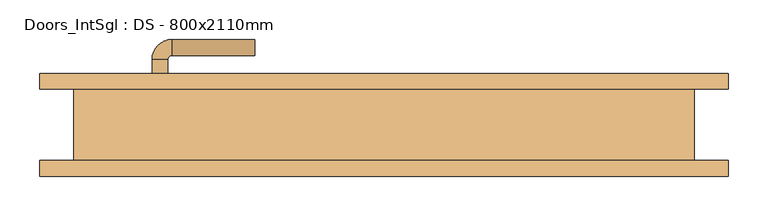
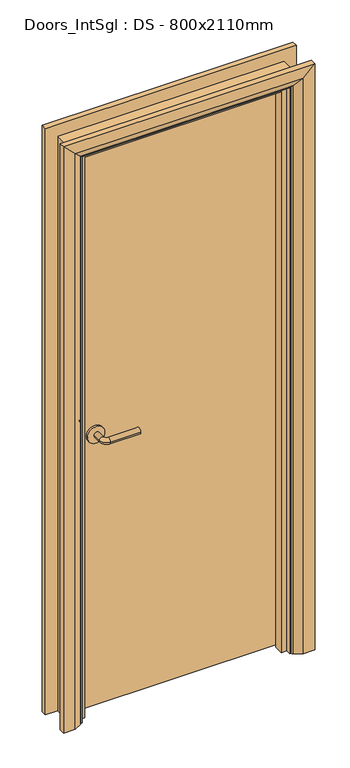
"""IFC4 building model written with IfcOpenShell, lengths in millimetres: door geometry, Doors_IntSgl : DS - 800x2110mm."""

from ifc_helpers import new_model, si_unit, point, frame, frame_2d, origin, place, context, project, spatial, polyline, circle_curve, ellipse_curve, trimmed, segment, composite_curve, outline, extrude, faceted_brep, source, transform, mapped, element, save
from ifc_brep_helpers import plane_surface, cylinder_surface, revolved_surface, advanced_brep


def doors_intsgl_ds_800x2110mm_65b095ba(model_context):
    return source(origin(), model_context, "Body", "SolidModel", [
        advanced_brep(
        [(-293.0, -1.0, 1000.0), (-273.0, -1.0, 1000.0), (-273.0, -31.0, 1000.0), (-293.0, -31.0, 1000.0), (-268.0, -36.0, 1000.0), (-268.0, -56.0, 1000.0), (-163.0, -56.0, 1000.0), (-163.0, -36.0, 1000.0)],
        [
            (0, 1, circle_curve(frame((-283.0, -1.0, 1000.0), z_axis=(0.0, 1.0, 0.0), x_axis=(1.0, 0.0, 0.0)), 10.0)),
            (1, 0, circle_curve(frame((-283.0, -1.0, 1000.0), z_axis=(0.0, 1.0, 0.0), x_axis=(1.0, 0.0, 0.0)), 10.0)),
            (1, 2),
            (2, 3, circle_curve(frame((-283.0, -31.0, 1000.0), z_axis=(0.0, 1.0, 0.0), x_axis=(1.0, 0.0, 0.0)), 10.0)),
            (3, 0),
            (3, 2, circle_curve(frame((-283.0, -31.0, 1000.0), z_axis=(0.0, 1.0, 0.0), x_axis=(1.0, 0.0, 0.0)), 10.0)),
            (4, 5, circle_curve(frame((-268.0, -46.0, 1000.0), z_axis=(-1.0, 0.0, 0.0), x_axis=(0.0, 1.0, 0.0)), 10.0)),
            (5, 3, circle_curve(frame((-268.0, -31.0, 1000.0), z_axis=(0.0, 0.0, -1.0), x_axis=(-1.0, 0.0, 0.0)), 25.0)),
            (2, 4, circle_curve(frame((-268.0, -31.0, 1000.0), z_axis=(0.0, 0.0, 1.0), x_axis=(-1.0, 0.0, 0.0)), 5.0)),
            (5, 4, circle_curve(frame((-268.0, -46.0, 1000.0), z_axis=(-1.0, 0.0, 0.0), x_axis=(0.0, 1.0, 0.0)), 10.0)),
            (6, 7, circle_curve(frame((-163.0, -46.0, 1000.0), z_axis=(1.0, 0.0, 0.0), x_axis=(0.0, 1.0, 0.0)), 10.0)),
            (7, 6, circle_curve(frame((-163.0, -46.0, 1000.0), z_axis=(1.0, 0.0, 0.0), x_axis=(0.0, 1.0, 0.0)), 10.0)),
            (4, 7),
            (6, 5),
        ],
        [
            plane_surface(frame((-283.0, -1.0, 1000.0), z_axis=(0.0, 1.0, 0.0), x_axis=(0.0, 0.0, 1.0))),
            cylinder_surface(frame((-283.0, -1.0, 1000.0), z_axis=(0.0, 1.0, 0.0), x_axis=(1.0, 0.0, 0.0)), 10.0),
            revolved_surface(trimmed(ellipse_curve(frame((-283.0, -31.0, 1000.0), z_axis=(0.0, -1.0, 0.0), x_axis=(1.0, 0.0, 0.0)), 10.0, 10.0), [point((-293.0, -31.0, 1000.0))], [point((-273.0, -31.0, 1000.0))], True, "CARTESIAN"), (-268.0, -31.0, 1000.0), (0.0, 0.0, -1.0)),
            revolved_surface(trimmed(ellipse_curve(frame((-283.0, -31.0, 1000.0), z_axis=(0.0, -1.0, 0.0), x_axis=(1.0, 0.0, 0.0)), 10.0, 10.0), [point((-273.0, -31.0, 1000.0))], [point((-293.0, -31.0, 1000.0))], True, "CARTESIAN"), (-268.0, -31.0, 1000.0), (0.0, 0.0, -1.0)),
            plane_surface(frame((-163.0, -46.0, 1000.0), z_axis=(1.0, 0.0, 0.0), x_axis=(0.0, 0.0, 1.0))),
            cylinder_surface(frame((-268.0, -46.0, 1000.0), z_axis=(-1.0, 0.0, 0.0), x_axis=(0.0, 1.0, 0.0)), 10.0),
        ],
        [
            (0, [[1, 2]]),
            (1, [[3, 4, 5, -2]]),
            (1, [[-5, 6, -3, -1]]),
            (2, [[7, 8, -4, 9]]),
            (3, [[10, -9, -6, -8]]),
            (4, [[11, 12]]),
            (5, [[13, -11, 14, -7]]),
            (5, [[-14, -12, -13, -10]]),
        ],
    ),
        extrude(outline(composite_curve([segment(trimmed(circle_curve(frame_2d((1000.0, -285.5)), 30.0), [point((1000.0, -315.5))], [point((1000.0, -255.5))], False, "CARTESIAN"), True, "CONTINUOUS"), segment(trimmed(circle_curve(frame_2d((1000.0, -285.5)), 30.0), [point((1000.0, -255.5))], [point((1000.0, -315.5))], False, "CARTESIAN"), True, "CONTINUOUS")], self_intersect=False)), frame((0.0, -1.0, 0.0), z_axis=(0.0, 1.0, 0.0), x_axis=(0.0, 0.0, 1.0)), (0.0, 0.0, 1.0), 8.0),
        advanced_brep(
        [(-293.0, 53.0, 1000.0), (-273.0, 53.0, 1000.0), (-293.0, 83.0, 1000.0), (-273.0, 83.0, 1000.0), (-268.0, 88.0, 1000.0), (-268.0, 108.0, 1000.0), (-163.0, 108.0, 1000.0), (-163.0, 88.0, 1000.0)],
        [
            (0, 1, circle_curve(frame((-283.0, 53.0, 1000.0), z_axis=(0.0, -1.0, 0.0), x_axis=(1.0, 0.0, 0.0)), 10.0)),
            (1, 0, circle_curve(frame((-283.0, 53.0, 1000.0), z_axis=(0.0, -1.0, 0.0), x_axis=(1.0, 0.0, 0.0)), 10.0)),
            (0, 2),
            (2, 3, circle_curve(frame((-283.0, 83.0, 1000.0), z_axis=(0.0, -1.0, 0.0), x_axis=(1.0, 0.0, 0.0)), 10.0)),
            (3, 1),
            (3, 2, circle_curve(frame((-283.0, 83.0, 1000.0), z_axis=(0.0, -1.0, 0.0), x_axis=(1.0, 0.0, 0.0)), 10.0)),
            (4, 3, circle_curve(frame((-268.0, 83.0, 1000.0), z_axis=(0.0, 0.0, 1.0), x_axis=(-1.0, 0.0, 0.0)), 5.0)),
            (2, 5, circle_curve(frame((-268.0, 83.0, 1000.0), z_axis=(0.0, 0.0, -1.0), x_axis=(-1.0, 0.0, 0.0)), 25.0)),
            (5, 4, circle_curve(frame((-268.0, 98.0, 1000.0), z_axis=(-1.0, 0.0, 0.0), x_axis=(0.0, -1.0, 0.0)), 10.0)),
            (4, 5, circle_curve(frame((-268.0, 98.0, 1000.0), z_axis=(-1.0, 0.0, 0.0), x_axis=(0.0, -1.0, 0.0)), 10.0)),
            (6, 7, circle_curve(frame((-163.0, 98.0, 1000.0), z_axis=(1.0, 0.0, 0.0), x_axis=(0.0, -1.0, 0.0)), 10.0)),
            (7, 6, circle_curve(frame((-163.0, 98.0, 1000.0), z_axis=(1.0, 0.0, 0.0), x_axis=(0.0, -1.0, 0.0)), 10.0)),
            (5, 6),
            (7, 4),
        ],
        [
            plane_surface(frame((-283.0, 53.0, 1000.0), z_axis=(0.0, -1.0, 0.0), x_axis=(0.0, 0.0, 1.0))),
            cylinder_surface(frame((-283.0, 53.0, 1000.0), z_axis=(0.0, -1.0, 0.0), x_axis=(1.0, 0.0, 0.0)), 10.0),
            revolved_surface(trimmed(ellipse_curve(frame((-283.0, 83.0, 1000.0), z_axis=(0.0, -1.0, 0.0), x_axis=(1.0, 0.0, 0.0)), 10.0, 10.0), [point((-293.0, 83.0, 1000.0))], [point((-273.0, 83.0, 1000.0))], True, "CARTESIAN"), (-268.0, 83.0, 1000.0), (0.0, 0.0, -1.0)),
            revolved_surface(trimmed(ellipse_curve(frame((-283.0, 83.0, 1000.0), z_axis=(0.0, -1.0, 0.0), x_axis=(1.0, 0.0, 0.0)), 10.0, 10.0), [point((-273.0, 83.0, 1000.0))], [point((-293.0, 83.0, 1000.0))], True, "CARTESIAN"), (-268.0, 83.0, 1000.0), (0.0, 0.0, -1.0)),
            plane_surface(frame((-163.0, 98.0, 1000.0), z_axis=(1.0, 0.0, 0.0), x_axis=(0.0, 0.0, 1.0))),
            cylinder_surface(frame((-268.0, 98.0, 1000.0), z_axis=(-1.0, 0.0, 0.0), x_axis=(0.0, -1.0, 0.0)), 10.0),
        ],
        [
            (0, [[1, 2]]),
            (1, [[-1, 3, 4, 5]]),
            (1, [[-2, -5, 6, -3]]),
            (2, [[7, -4, 8, 9]]),
            (3, [[-8, -6, -7, 10]]),
            (4, [[11, 12]]),
            (5, [[-9, 13, -12, 14]]),
            (5, [[-10, -14, -11, -13]]),
        ],
    ),
        extrude(outline(composite_curve([segment(trimmed(circle_curve(frame_2d((1000.0, -285.5)), 30.0), [point((1000.0, -315.5))], [point((1000.0, -255.5))], False, "CARTESIAN"), True, "CONTINUOUS"), segment(trimmed(circle_curve(frame_2d((1000.0, -285.5)), 30.0), [point((1000.0, -255.5))], [point((1000.0, -315.5))], False, "CARTESIAN"), True, "CONTINUOUS")], self_intersect=False)), frame((0.0, 45.0, 0.0), z_axis=(0.0, 1.0, 0.0), x_axis=(0.0, 0.0, 1.0)), (0.0, 0.0, 1.0), 8.0),
        extrude(outline(polyline([(358.0, 7.0), (-358.0, 7.0), (-358.0, 45.0), (358.0, 45.0), (358.0, 7.0)])), frame((0.0, 0.0, 8.0), z_axis=(0.0, 0.0, 1.0), x_axis=(1.0, 0.0, 0.0)), (0.0, 0.0, 1.0), 2060.0),
        advanced_brep(
        [(435.0, 65.0, 0.0), (435.0, 45.0, 0.0), (365.0, 45.0, 0.0), (369.0, 51.0, 0.0), (395.0, 65.0, 0.0), (435.0, 65.0, 2145.0), (435.0, 45.0, 2145.0), (-435.0, 45.0, 2145.0), (-435.0, 45.0, 0.0), (-365.0, 45.0, 0.0), (-365.0, 45.0, 2075.0), (365.0, 45.0, 2075.0), (369.0, 51.0, 2079.0), (395.0, 65.0, 2105.0), (-395.0, 65.0, 2105.0), (-395.0, 65.0, 0.0), (-435.0, 65.0, 0.0), (-435.0, 65.0, 2145.0), (-369.0, 51.0, 0.0), (-369.0, 51.0, 2079.0)],
        [
            (0, 1),
            (1, 2),
            (2, 3, circle_curve(frame((373.0, 44.0, 0.0), z_axis=(0.0, 0.0, -1.0), x_axis=(1.0, 0.0, 0.0)), 8.0622577)),
            (3, 4),
            (4, 0),
            (0, 5),
            (5, 6),
            (6, 1),
            (6, 7),
            (7, 8),
            (8, 9),
            (9, 10),
            (10, 11),
            (11, 2),
            (11, 12, ellipse_curve(frame((373.0, 44.0, 2083.0), z_axis=(0.7071067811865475, 0.0, -0.7071067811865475), x_axis=(-0.7071067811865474, 0.0, -0.7071067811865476)), 11.4017543, 8.0622577)),
            (12, 3),
            (12, 13),
            (13, 4),
            (13, 14),
            (14, 15),
            (15, 16),
            (16, 17),
            (17, 5),
            (7, 17),
            (16, 8),
            (15, 18),
            (18, 9, circle_curve(frame((-373.0, 44.0, 0.0), z_axis=(0.0, 0.0, -1.0), x_axis=(-1.0, 0.0, 0.0)), 8.0622577)),
            (19, 10, ellipse_curve(frame((-373.0, 44.0, 2083.0), z_axis=(-0.7071067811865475, 0.0, -0.7071067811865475), x_axis=(-0.7071067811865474, 0.0, 0.7071067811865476)), 11.4017543, 8.0622577)),
            (18, 19),
            (14, 19),
            (19, 12),
        ],
        [
            plane_surface(frame((365.0, 45.0, 0.0), z_axis=(0.0, 0.0, -1.0), x_axis=(0.0, -1.0, 0.0))),
            plane_surface(frame((435.0, 65.0, 0.0), z_axis=(1.0, 0.0, 0.0), x_axis=(0.0, 0.0, 1.0))),
            plane_surface(frame((435.0, 45.0, 0.0), z_axis=(0.0, -1.0, 0.0), x_axis=(0.0, 0.0, 1.0))),
            cylinder_surface(frame((373.0, 44.0, 0.0), z_axis=(0.0, 0.0, -1.0), x_axis=(1.0, 0.0, 0.0)), 8.0622577),
            plane_surface(frame((369.0, 51.0, 0.0), z_axis=(-0.4740998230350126, 0.880471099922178, 0.0), x_axis=(0.0, 0.0, 1.0))),
            plane_surface(frame((395.0, 65.0, 0.0), z_axis=(0.0, 1.0, 0.0), x_axis=(0.0, 0.0, 1.0))),
            plane_surface(frame((-435.0, 65.0, 2145.0), z_axis=(-1.0, 0.0, 0.0), x_axis=(0.0, 0.0, -1.0))),
            plane_surface(frame((-365.0, 45.0, 0.0), z_axis=(0.0, 0.0, -1.0), x_axis=(0.0, -1.0, 0.0))),
            cylinder_surface(frame((-373.0, 44.0, 2075.0), z_axis=(0.0, 0.0, 1.0), x_axis=(-1.0, 0.0, 0.0)), 8.0622577),
            plane_surface(frame((-369.0, 51.0, 2079.0), z_axis=(0.47409982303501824, 0.8804710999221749, 0.0), x_axis=(0.0, 0.0, -1.0))),
            plane_surface(frame((435.0, 65.0, 2145.0), z_axis=(0.0, 0.0, 1.0), x_axis=(-1.0, 0.0, 0.0))),
            cylinder_surface(frame((365.0, 44.0, 2083.0), z_axis=(1.0, 0.0, 0.0), x_axis=(0.0, 0.0, 1.0)), 8.0622577),
            plane_surface(frame((369.0, 51.0, 2079.0), z_axis=(0.0, 0.8804710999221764, -0.4740998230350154), x_axis=(-1.0, 0.0, 0.0))),
        ],
        [
            (0, [[1, 2, 3, 4, 5]]),
            (1, [[-1, 6, 7, 8]]),
            (2, [[-2, -8, 9, 10, 11, 12, 13, 14]]),
            (3, [[-3, -14, 15, 16]]),
            (4, [[-4, -16, 17, 18]]),
            (5, [[-5, -18, 19, 20, 21, 22, 23, -6]]),
            (6, [[24, -22, 25, -10]]),
            (7, [[-21, 26, 27, -11, -25]]),
            (8, [[28, -12, -27, 29]]),
            (9, [[30, -29, -26, -20]]),
            (10, [[-7, -23, -24, -9]]),
            (11, [[-15, -13, -28, 31]]),
            (12, [[-17, -31, -30, -19]]),
        ],
    ),
        extrude(outline(polyline([(0.0, -360.0), (0.0, -341.0), (2051.0, -341.0), (2051.0, 341.0), (0.0, 341.0), (0.0, 360.0), (2070.0, 360.0), (2070.0, -360.0), (0.0, -360.0)])), frame((0.0, -27.0, 0.0), z_axis=(0.0, 1.0, 0.0), x_axis=(0.0, 0.0, 1.0)), (0.0, 0.0, 1.0), 32.0),
        advanced_brep(
        [(-435.0, -65.0, 0.0), (-435.0, -45.0, 0.0), (-365.0, -45.0, 0.0), (-369.0, -51.0, 0.0), (-395.0, -65.0, 0.0), (-435.0, -65.0, 2145.0), (-435.0, -45.0, 2145.0), (-365.0, -45.0, 2075.0), (-369.0, -51.0, 2079.0), (-395.0, -65.0, 2105.0), (435.0, -65.0, 0.0), (395.0, -65.0, 0.0), (369.0, -51.0, 0.0), (365.0, -45.0, 0.0), (435.0, -45.0, 0.0), (435.0, -65.0, 2145.0), (395.0, -65.0, 2105.0), (369.0, -51.0, 2079.0), (365.0, -45.0, 2075.0), (435.0, -45.0, 2145.0)],
        [
            (0, 1),
            (1, 2),
            (2, 3, circle_curve(frame((-373.0, -44.0, 0.0), z_axis=(0.0, 0.0, -1.0), x_axis=(-1.0, 0.0, 0.0)), 8.0622577)),
            (3, 4),
            (4, 0),
            (0, 5),
            (5, 6),
            (6, 1),
            (6, 7),
            (7, 2),
            (7, 8, ellipse_curve(frame((-373.0, -44.0, 2083.0), z_axis=(-0.7071067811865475, 0.0, -0.7071067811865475), x_axis=(0.7071067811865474, 0.0, -0.7071067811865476)), 11.4017543, 8.0622577)),
            (8, 3),
            (8, 9),
            (9, 4),
            (9, 5),
            (10, 11),
            (11, 12),
            (12, 13, circle_curve(frame((373.0, -44.0, 0.0), z_axis=(0.0, 0.0, -1.0), x_axis=(1.0, 0.0, 0.0)), 8.0622577)),
            (13, 14),
            (14, 10),
            (15, 16),
            (16, 11),
            (10, 15),
            (16, 17),
            (17, 12),
            (17, 18, ellipse_curve(frame((373.0, -44.0, 2083.0), z_axis=(0.7071067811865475, 0.0, -0.7071067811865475), x_axis=(0.7071067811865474, 0.0, 0.7071067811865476)), 11.4017543, 8.0622577)),
            (18, 13),
            (18, 19),
            (19, 14),
            (19, 15),
            (5, 15),
            (19, 6),
            (18, 7),
            (17, 8),
            (16, 9),
        ],
        [
            plane_surface(frame((-365.0, -117.8010989, 0.0), z_axis=(0.0, 0.0, -1.0), x_axis=(1.0, 0.0, 0.0))),
            plane_surface(frame((-435.0, -65.0, 0.0), z_axis=(-1.0, 0.0, 0.0), x_axis=(0.0, 0.0, 1.0))),
            plane_surface(frame((-435.0, -45.0, 0.0), z_axis=(0.0, 1.0, 0.0), x_axis=(0.0, 0.0, 1.0))),
            cylinder_surface(frame((-373.0, -44.0, 0.0), z_axis=(0.0, 0.0, -1.0), x_axis=(-1.0, 0.0, 0.0)), 8.0622577),
            plane_surface(frame((-369.0, -51.0, 0.0), z_axis=(0.4740998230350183, -0.8804710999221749, 0.0), x_axis=(0.0, 0.0, 1.0))),
            plane_surface(frame((-395.0, -65.0, 0.0), z_axis=(0.0, -1.0, 0.0), x_axis=(0.0, 0.0, 1.0))),
            plane_surface(frame((365.0, -117.8010989, 0.0), z_axis=(0.0, 0.0, -1.0), x_axis=(-1.0, 0.0, 0.0))),
            plane_surface(frame((395.0, -65.0, 2105.0), z_axis=(0.0, -1.0, 0.0), x_axis=(0.0, 0.0, -1.0))),
            plane_surface(frame((369.0, -51.0, 2079.0), z_axis=(-0.4740998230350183, -0.8804710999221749, 0.0), x_axis=(0.0, 0.0, -1.0))),
            cylinder_surface(frame((373.0, -44.0, 2075.0), z_axis=(0.0, 0.0, 1.0), x_axis=(1.0, 0.0, 0.0)), 8.0622577),
            plane_surface(frame((435.0, -45.0, 2145.0), z_axis=(0.0, 1.0, 0.0), x_axis=(0.0, 0.0, -1.0))),
            plane_surface(frame((435.0, -65.0, 2145.0), z_axis=(1.0, 0.0, 0.0), x_axis=(0.0, 0.0, -1.0))),
            plane_surface(frame((-435.0, -65.0, 2145.0), z_axis=(0.0, 0.0, 1.0), x_axis=(1.0, 0.0, 0.0))),
            plane_surface(frame((-435.0, -45.0, 2145.0), z_axis=(0.0, 1.0, 0.0), x_axis=(1.0, 0.0, 0.0))),
            cylinder_surface(frame((-365.0, -44.0, 2083.0), z_axis=(-1.0, 0.0, 0.0), x_axis=(0.0, 0.0, 1.0)), 8.0622577),
            plane_surface(frame((-369.0, -51.0, 2079.0), z_axis=(0.0, -0.8804710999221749, -0.4740998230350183), x_axis=(1.0, 0.0, 0.0))),
            plane_surface(frame((-395.0, -65.0, 2105.0), z_axis=(0.0, -1.0, 0.0), x_axis=(1.0, 0.0, 0.0))),
        ],
        [
            (0, [[1, 2, 3, 4, 5]]),
            (1, [[-1, 6, 7, 8]]),
            (2, [[-2, -8, 9, 10]]),
            (3, [[-3, -10, 11, 12]]),
            (4, [[-4, -12, 13, 14]]),
            (5, [[-5, -14, 15, -6]]),
            (6, [[16, 17, 18, 19, 20]]),
            (7, [[21, 22, -16, 23]]),
            (8, [[24, 25, -17, -22]]),
            (9, [[26, 27, -18, -25]]),
            (10, [[28, 29, -19, -27]]),
            (11, [[30, -23, -20, -29]]),
            (12, [[-7, 31, -30, 32]]),
            (13, [[-9, -32, -28, 33]]),
            (14, [[-11, -33, -26, 34]]),
            (15, [[-13, -34, -24, 35]]),
            (16, [[-15, -35, -21, -31]]),
        ],
    ),
        faceted_brep([(-360.0, 45.0, 0.0), (-360.0, -45.0, 0.0), (-392.0, -45.0, 0.0), (-392.0, 45.0, 0.0), (-360.0, 45.0, 2070.0), (-360.0, -45.0, 2070.0), (-392.0, -45.0, 2102.0), (-392.0, 45.0, 2102.0), (360.0, 45.0, 0.0), (392.0, 45.0, 0.0), (392.0, -45.0, 0.0), (360.0, -45.0, 0.0), (360.0, 45.0, 2070.0), (392.0, 45.0, 2102.0), (392.0, -45.0, 2102.0), (360.0, -45.0, 2070.0)], [[[0, 1, 2, 3]], [[1, 0, 4, 5]], [[2, 1, 5, 6]], [[3, 2, 6, 7]], [[0, 3, 7, 4]], [[8, 9, 10, 11]], [[12, 13, 9, 8]], [[13, 14, 10, 9]], [[14, 15, 11, 10]], [[15, 12, 8, 11]], [[5, 4, 12, 15]], [[6, 5, 15, 14]], [[7, 6, 14, 13]], [[4, 7, 13, 12]]]),
    ])


if __name__ == "__main__":
    model = new_model("IFC4")
    model_context = context("Model", 3, world=origin())
    ifc_project = project(units=[si_unit("LENGTHUNIT", "METRE", prefix="MILLI")], contexts=[model_context])
    site = spatial("IfcSite", under=ifc_project)
    building = spatial("IfcBuilding", under=site)
    placement = place(None, origin())
    doors_intsgl_ds_800x2110mm_shape = doors_intsgl_ds_800x2110mm_65b095ba(model_context)
    element("IfcDoor", 1, ObjectType="Doors_IntSgl : DS - 800x2110mm", at=placement, inside=building, context=model_context, shape_type="MappedRepresentation", body=[
        mapped(doors_intsgl_ds_800x2110mm_shape, transform((0.0, 0.0, 0.0), x_axis=(1.0, 0.0, 0.0), y_axis=(0.0, 1.0, 0.0), z_axis=(0.0, 0.0, 1.0))),
    ])
    save(model, "model.ifc")
